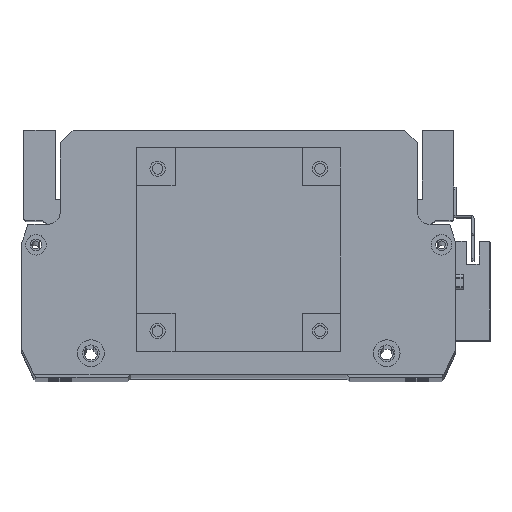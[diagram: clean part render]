
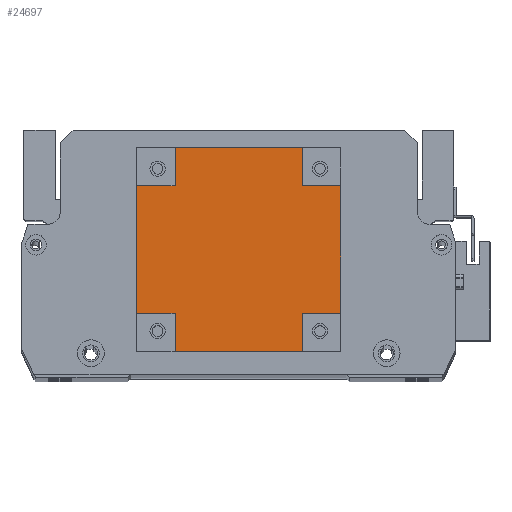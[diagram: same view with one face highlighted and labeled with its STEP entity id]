
A CAD part, top view. The second image highlights one B-rep face of the part: STEP entity #24697.
In plain terms, the highlighted planar face has unit normal (0, 0, 1).
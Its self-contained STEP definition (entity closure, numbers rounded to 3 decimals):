
#87 = CARTESIAN_POINT ( 'NONE',  ( 0., 65., 101.5 ) ) ;
#386 = LINE ( 'NONE', #16811, #22815 ) ;
#757 = VERTEX_POINT ( 'NONE', #24703 ) ;
#1035 = VECTOR ( 'NONE', #8287, 1000. ) ;
#1352 = CARTESIAN_POINT ( 'NONE',  ( 0., 0., 101.5 ) ) ;
#2344 = DIRECTION ( 'NONE',  ( -1., 0., 0. ) ) ;
#2728 = LINE ( 'NONE', #9028, #13071 ) ;
#3448 = VECTOR ( 'NONE', #15868, 1000. ) ;
#4025 = CARTESIAN_POINT ( 'NONE',  ( 0., 0., 101.5 ) ) ;
#4113 = LINE ( 'NONE', #1352, #3448 ) ;
#4151 = DIRECTION ( 'NONE',  ( 0., 0., -1. ) ) ;
#4180 = DIRECTION ( 'NONE',  ( 1., 0., 0. ) ) ;
#4245 = AXIS2_PLACEMENT_3D ( 'NONE', #12235, #4151, #18527 ) ;
#4350 = CARTESIAN_POINT ( 'NONE',  ( 65., 80., 101.5 ) ) ;
#4502 = EDGE_LOOP ( 'NONE', ( #9744, #20620, #24290, #20021, #9476, #19506, #16427, #19900, #18551, #20310, #4693, #11550 ) ) ;
#4675 = CARTESIAN_POINT ( 'NONE',  ( 80., 0., 101.5 ) ) ;
#4693 = ORIENTED_EDGE ( 'NONE', *, *, #17948, .F. ) ;
#4781 = CARTESIAN_POINT ( 'NONE',  ( 15., 65., 101.5 ) ) ;
#5011 = VECTOR ( 'NONE', #21958, 1000. ) ;
#5208 = VERTEX_POINT ( 'NONE', #4781 ) ;
#5380 = VECTOR ( 'NONE', #20890, 1000. ) ;
#6053 = LINE ( 'NONE', #4025, #26321 ) ;
#6612 = LINE ( 'NONE', #16616, #11474 ) ;
#7648 = LINE ( 'NONE', #9118, #12410 ) ;
#7929 = CARTESIAN_POINT ( 'NONE',  ( 65., 0., 101.5 ) ) ;
#8201 = VERTEX_POINT ( 'NONE', #9692 ) ;
#8255 = CARTESIAN_POINT ( 'NONE',  ( 65., 0., 101.5 ) ) ;
#8287 = DIRECTION ( 'NONE',  ( -1., 0., 0. ) ) ;
#9028 = CARTESIAN_POINT ( 'NONE',  ( 15., 80., 101.5 ) ) ;
#9118 = CARTESIAN_POINT ( 'NONE',  ( 0., 65., 101.5 ) ) ;
#9476 = ORIENTED_EDGE ( 'NONE', *, *, #17759, .F. ) ;
#9574 = VERTEX_POINT ( 'NONE', #16494 ) ;
#9692 = CARTESIAN_POINT ( 'NONE',  ( 0., 15., 101.5 ) ) ;
#9744 = ORIENTED_EDGE ( 'NONE', *, *, #17486, .T. ) ;
#10307 = CARTESIAN_POINT ( 'NONE',  ( 15., 15., 101.5 ) ) ;
#10534 = LINE ( 'NONE', #20090, #20654 ) ;
#10689 = DIRECTION ( 'NONE',  ( 0., -1., 0. ) ) ;
#11474 = VECTOR ( 'NONE', #4180, 1000. ) ;
#11550 = ORIENTED_EDGE ( 'NONE', *, *, #17978, .F. ) ;
#11687 = VERTEX_POINT ( 'NONE', #10307 ) ;
#12084 = LINE ( 'NONE', #12448, #1035 ) ;
#12235 = CARTESIAN_POINT ( 'NONE',  ( 0., 0., 101.5 ) ) ;
#12324 = PLANE ( 'NONE',  #4245 ) ;
#12410 = VECTOR ( 'NONE', #21200, 1000. ) ;
#12448 = CARTESIAN_POINT ( 'NONE',  ( 80., 15., 101.5 ) ) ;
#12554 = VERTEX_POINT ( 'NONE', #87 ) ;
#13071 = VECTOR ( 'NONE', #17157, 1000. ) ;
#15550 = CARTESIAN_POINT ( 'NONE',  ( 15., 0., 101.5 ) ) ;
#15805 = CARTESIAN_POINT ( 'NONE',  ( 65., 65., 101.5 ) ) ;
#15868 = DIRECTION ( 'NONE',  ( 1., 0., 0. ) ) ;
#15944 = VERTEX_POINT ( 'NONE', #21404 ) ;
#16218 = EDGE_CURVE ( 'NONE', #12554, #8201, #6053, .T. ) ;
#16427 = ORIENTED_EDGE ( 'NONE', *, *, #16739, .T. ) ;
#16494 = CARTESIAN_POINT ( 'NONE',  ( 65., 15., 101.5 ) ) ;
#16614 = FACE_OUTER_BOUND ( 'NONE', #4502, .T. ) ;
#16616 = CARTESIAN_POINT ( 'NONE',  ( 65., 65., 101.5 ) ) ;
#16704 = CARTESIAN_POINT ( 'NONE',  ( 65., 80., 101.5 ) ) ;
#16739 = EDGE_CURVE ( 'NONE', #20421, #18586, #4113, .T. ) ;
#16811 = CARTESIAN_POINT ( 'NONE',  ( 0., 80., 101.5 ) ) ;
#16927 = LINE ( 'NONE', #16704, #26214 ) ;
#17060 = EDGE_CURVE ( 'NONE', #15944, #25574, #17627, .T. ) ;
#17157 = DIRECTION ( 'NONE',  ( 0., 1., 0. ) ) ;
#17486 = EDGE_CURVE ( 'NONE', #24936, #757, #386, .T. ) ;
#17609 = EDGE_CURVE ( 'NONE', #5208, #757, #2728, .T. ) ;
#17627 = LINE ( 'NONE', #4675, #5380 ) ;
#17641 = EDGE_CURVE ( 'NONE', #12554, #5208, #7648, .T. ) ;
#17759 = EDGE_CURVE ( 'NONE', #11687, #8201, #21261, .T. ) ;
#17792 = EDGE_CURVE ( 'NONE', #20421, #11687, #10534, .T. ) ;
#17801 = EDGE_CURVE ( 'NONE', #9574, #18586, #25923, .T. ) ;
#17920 = EDGE_CURVE ( 'NONE', #15944, #9574, #12084, .T. ) ;
#17948 = EDGE_CURVE ( 'NONE', #22376, #25574, #6612, .T. ) ;
#17978 = EDGE_CURVE ( 'NONE', #24936, #22376, #16927, .T. ) ;
#18120 = DIRECTION ( 'NONE',  ( 0., -1., 0. ) ) ;
#18527 = DIRECTION ( 'NONE',  ( -1., 0., 0. ) ) ;
#18551 = ORIENTED_EDGE ( 'NONE', *, *, #17920, .F. ) ;
#18586 = VERTEX_POINT ( 'NONE', #8255 ) ;
#19506 = ORIENTED_EDGE ( 'NONE', *, *, #17792, .F. ) ;
#19900 = ORIENTED_EDGE ( 'NONE', *, *, #17801, .F. ) ;
#20000 = CARTESIAN_POINT ( 'NONE',  ( 0., 15., 101.5 ) ) ;
#20021 = ORIENTED_EDGE ( 'NONE', *, *, #16218, .T. ) ;
#20027 = VECTOR ( 'NONE', #18120, 1000. ) ;
#20090 = CARTESIAN_POINT ( 'NONE',  ( 15., 0., 101.5 ) ) ;
#20310 = ORIENTED_EDGE ( 'NONE', *, *, #17060, .T. ) ;
#20365 = DIRECTION ( 'NONE',  ( 0., -1., 0. ) ) ;
#20421 = VERTEX_POINT ( 'NONE', #15550 ) ;
#20620 = ORIENTED_EDGE ( 'NONE', *, *, #17609, .F. ) ;
#20654 = VECTOR ( 'NONE', #22043, 1000. ) ;
#20730 = CARTESIAN_POINT ( 'NONE',  ( 80., 65., 101.5 ) ) ;
#20890 = DIRECTION ( 'NONE',  ( 0., 1., 0. ) ) ;
#21200 = DIRECTION ( 'NONE',  ( 1., 0., 0. ) ) ;
#21261 = LINE ( 'NONE', #20000, #5011 ) ;
#21404 = CARTESIAN_POINT ( 'NONE',  ( 80., 15., 101.5 ) ) ;
#21958 = DIRECTION ( 'NONE',  ( -1., 0., 0. ) ) ;
#22043 = DIRECTION ( 'NONE',  ( 0., 1., 0. ) ) ;
#22376 = VERTEX_POINT ( 'NONE', #15805 ) ;
#22815 = VECTOR ( 'NONE', #2344, 1000. ) ;
#24290 = ORIENTED_EDGE ( 'NONE', *, *, #17641, .F. ) ;
#24697 = ADVANCED_FACE ( 'NONE', ( #16614 ), #12324, .F. ) ;
#24703 = CARTESIAN_POINT ( 'NONE',  ( 15., 80., 101.5 ) ) ;
#24936 = VERTEX_POINT ( 'NONE', #4350 ) ;
#25574 = VERTEX_POINT ( 'NONE', #20730 ) ;
#25923 = LINE ( 'NONE', #7929, #20027 ) ;
#26214 = VECTOR ( 'NONE', #10689, 1000. ) ;
#26321 = VECTOR ( 'NONE', #20365, 1000. ) ;
